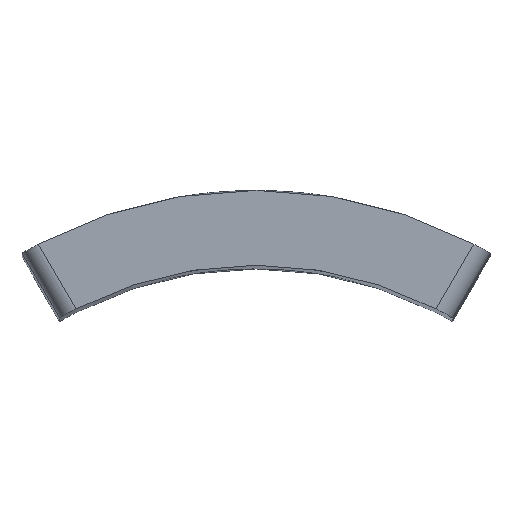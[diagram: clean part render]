
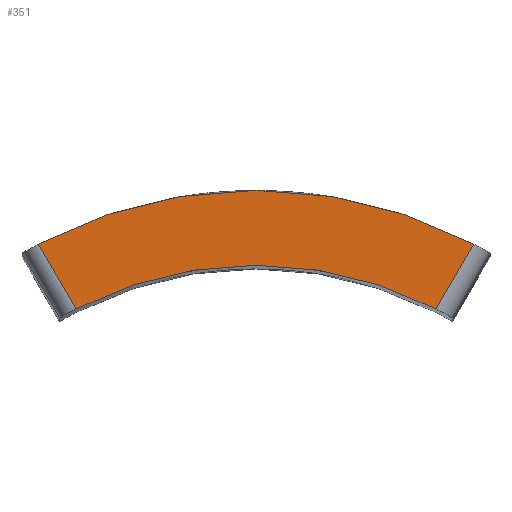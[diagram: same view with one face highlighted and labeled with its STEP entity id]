
A CAD part, top view. The second image highlights one B-rep face of the part: STEP entity #351.
In plain terms, the highlighted planar face has unit normal (0, 0, 1).
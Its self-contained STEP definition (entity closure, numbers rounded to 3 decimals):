
#15=PLANE('',#391);
#27=CIRCLE('',#389,42.);
#29=CIRCLE('',#392,50.);
#33=FACE_OUTER_BOUND('',#53,.T.);
#53=EDGE_LOOP('',(#255,#256,#257,#258));
#71=LINE('',#498,#99);
#79=LINE('',#639,#107);
#99=VECTOR('',#413,10.);
#107=VECTOR('',#431,10.);
#148=VERTEX_POINT('',#486);
#149=VERTEX_POINT('',#497);
#151=VERTEX_POINT('',#512);
#165=VERTEX_POINT('',#637);
#184=EDGE_CURVE('',#148,#149,#71,.T.);
#187=EDGE_CURVE('',#151,#149,#27,.T.);
#202=EDGE_CURVE('',#148,#165,#29,.T.);
#203=EDGE_CURVE('',#151,#165,#79,.T.);
#255=ORIENTED_EDGE('',*,*,#184,.F.);
#256=ORIENTED_EDGE('',*,*,#202,.T.);
#257=ORIENTED_EDGE('',*,*,#203,.F.);
#258=ORIENTED_EDGE('',*,*,#187,.T.);
#351=ADVANCED_FACE('',(#33),#15,.T.);
#389=AXIS2_PLACEMENT_3D('',#513,#417,#418);
#391=AXIS2_PLACEMENT_3D('',#636,#427,#428);
#392=AXIS2_PLACEMENT_3D('',#638,#429,#430);
#413=DIRECTION('',(-0.5,-0.866,0.));
#417=DIRECTION('center_axis',(0.,0.,-1.));
#418=DIRECTION('ref_axis',(0.5,0.866,0.));
#427=DIRECTION('center_axis',(0.,0.,1.));
#428=DIRECTION('ref_axis',(1.,0.,0.));
#429=DIRECTION('center_axis',(0.,0.,1.));
#430=DIRECTION('ref_axis',(-0.5,-0.866,0.));
#431=DIRECTION('',(-0.5,0.866,0.));
#486=CARTESIAN_POINT('',(23.248,44.267,226.));
#497=CARTESIAN_POINT('',(19.244,37.332,226.));
#498=CARTESIAN_POINT('',(18.177,35.483,226.));
#512=CARTESIAN_POINT('',(-19.244,37.332,226.));
#513=CARTESIAN_POINT('Origin',(0.,0.,
226.));
#636=CARTESIAN_POINT('Origin',(0.,43.457,226.));
#637=CARTESIAN_POINT('',(-23.248,44.267,226.));
#638=CARTESIAN_POINT('Origin',(0.,0.,226.));
#639=CARTESIAN_POINT('',(-20.177,38.947,226.));
